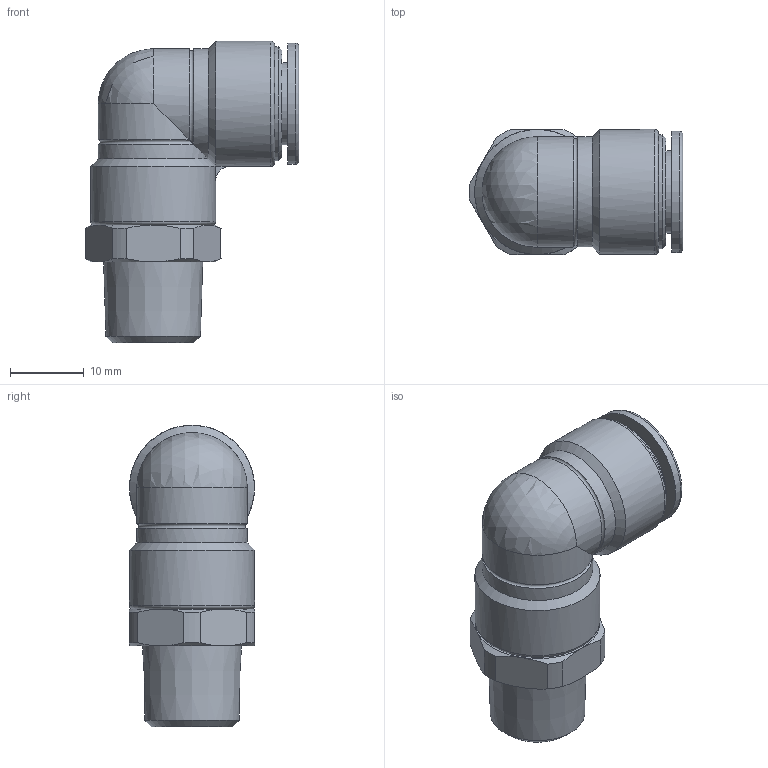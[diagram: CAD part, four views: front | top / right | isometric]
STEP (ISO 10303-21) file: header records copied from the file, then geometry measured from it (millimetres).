
FILE_DESCRIPTION(/* description */ (''),/* implementation_level */ '2;1');
FILE_NAME(/* name */ 'E:\2013年度版　3D-DATA\【02】 TOUCH CONNECTOR FIVE SUS\[02] MALE ELBOW\[12] FS10-02ML FS10-02MLW.stp',/* time_stamp */ '2013-08-06T16:48:58+09:00',/* author */ ('takahashi-pc2'),/* organization */ (''),/* preprocessor_version */ 'ST-DEVELOPER v15.2',/* originating_system */ 'Autodesk Inventor 2014',/* authorisation */ '');
FILE_SCHEMA (('AUTOMOTIVE_DESIGN { 1 0 10303 214 3 1 1 }'));
Length unit declared in the file: millimetre
Products named in the file (1): [12] FS10-02ML FS10-02MLW
Bounding box: 29.04 x 17 x 41 mm (x, y, z)
Volume: 8683.2 mm3; surface area: 3699.6 mm2
Topology: 1 solids, 1 shells, 60 faces, 135 edges, 81 vertices
Faces by surface type: plane 20, cone 17, cylinder 17, torus 5, sphere 1
Full cylindrical faces by diameter (mm): 10 x1, 11.2 x1, 15.5 x1, 16.5 x1, 17 x2
Entity records: 1623 total; most frequent: CARTESIAN_POINT 363, DIRECTION 272, ORIENTED_EDGE 242, AXIS2_PLACEMENT_3D 122, EDGE_CURVE 121, VERTEX_POINT 81, EDGE_LOOP 78, ADVANCED_FACE 60
